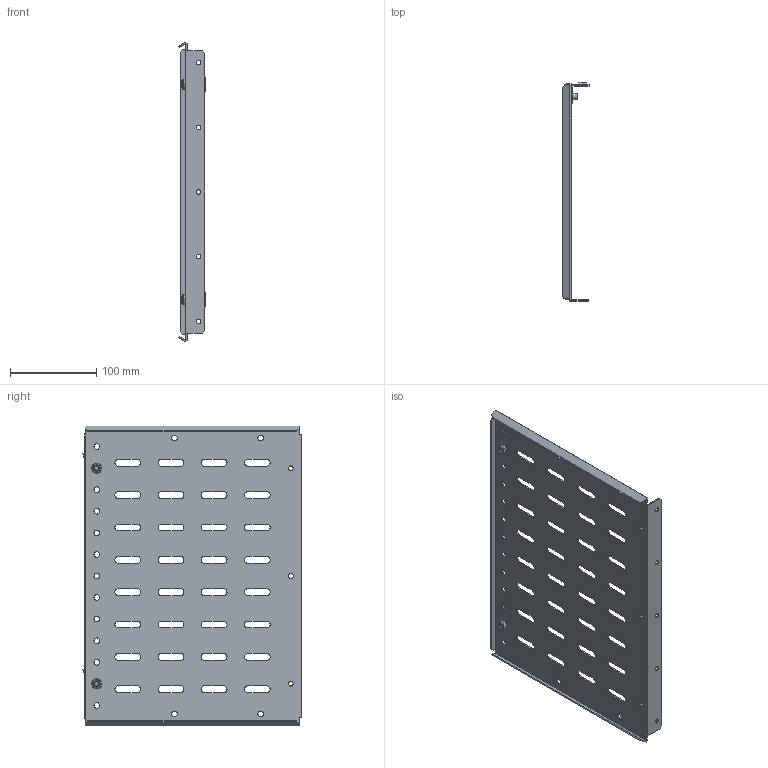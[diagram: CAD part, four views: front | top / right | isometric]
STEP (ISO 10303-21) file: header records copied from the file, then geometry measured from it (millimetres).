
FILE_DESCRIPTION (( 'STEP AP214' ), '1' );
FILE_NAME ('FO-00-SWFB-035 Ïåðåãîðîäêà ñåêöèîíèðîâàíèÿ çàäíÿÿ äëÿ âåðòèêàëüíîãî øèííîãî îòñåêà âûñîòà 350 ìì â øêàô øèðèíîé 600 ìì.STEP', '2025-08-08T11:30:14', ( '' ), ( '' ), 'SwSTEP 2.0', 'SolidWorks 2023', '' );
FILE_SCHEMA (( 'AUTOMOTIVE_DESIGN' ));
Length unit declared in the file: millimetre
Products named in the file (1): FO-00-SWFB-035 Перегородка секционирования задняя для вертикального шинного отсека высота 350 мм в шкаф шириной 600 мм
Bounding box: 30.53 x 253.25 x 347.3 mm (x, y, z)
Volume: 143298.7 mm3; surface area: 193558.7 mm2
Topology: 1 solids, 3 shells, 366 faces, 1046 edges, 692 vertices
Faces by surface type: cylinder 192, plane 158, cone 8, torus 8
Entity records: 12325 total; most frequent: DIRECTION 2188, CARTESIAN_POINT 2105, ORIENTED_EDGE 2092, EDGE_CURVE 1046, AXIS2_PLACEMENT_3D 775, VERTEX_POINT 692, LINE 638, VECTOR 638
